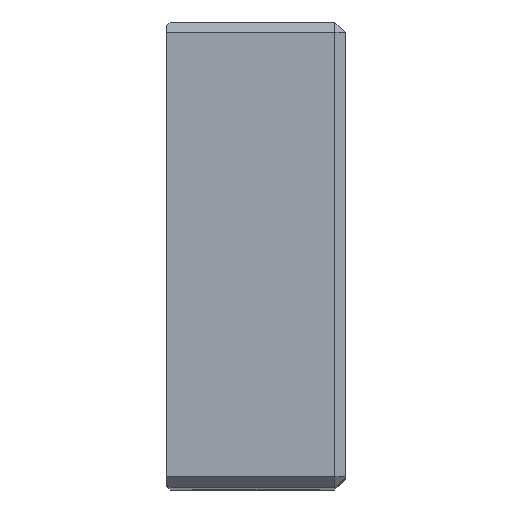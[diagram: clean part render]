
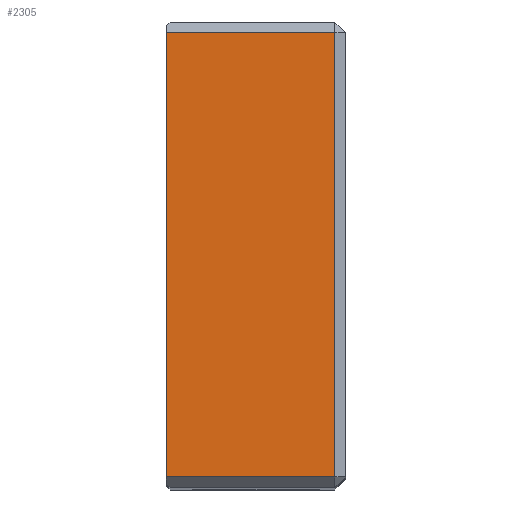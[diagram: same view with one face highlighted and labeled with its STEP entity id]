
A CAD part, top view. The second image highlights one B-rep face of the part: STEP entity #2305.
In plain terms, the highlighted planar face has unit normal (0, 0, 1).
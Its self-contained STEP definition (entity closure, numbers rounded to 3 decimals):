
#267=VERTEX_POINT(' ',#268);
#268=CARTESIAN_POINT('',(-3.,-62.,0.));
#269=VERTEX_POINT(' ',#270);
#270=CARTESIAN_POINT('',(-3.,62.,0.));
#271=VERTEX_POINT(' ',#272);
#272=CARTESIAN_POINT('',(-50.,62.,0.));
#273=VERTEX_POINT(' ',#274);
#274=CARTESIAN_POINT('',(-50.,-62.,0.));
#1112=LINE('',#1113,#1114);
#1113=CARTESIAN_POINT('',(-3.,78.971,0.));
#1114=VECTOR('',#1115,1.);
#1115=DIRECTION('',(0.,-1.,0.));
#1116=EDGE_CURVE(' ',#269,#267,#1112,.T.);
#1117=LINE('',#1118,#1119);
#1118=CARTESIAN_POINT('',(-66.971,62.,0.));
#1119=VECTOR('',#1120,1.);
#1120=DIRECTION('',(1.,0.,0.));
#1121=EDGE_CURVE(' ',#271,#269,#1117,.T.);
#1122=LINE('',#1123,#1124);
#1123=CARTESIAN_POINT('',(-50.,65.12,0.));
#1124=VECTOR('',#1125,1.);
#1125=DIRECTION('',(0.,-1.,0.));
#1126=EDGE_CURVE(' ',#271,#273,#1122,.T.);
#1127=LINE('',#1128,#1129);
#1128=CARTESIAN_POINT('',(13.971,-62.,0.));
#1129=VECTOR('',#1130,1.);
#1130=DIRECTION('',(-1.,0.,0.));
#1131=EDGE_CURVE(' ',#267,#273,#1127,.T.);
#2294=ORIENTED_EDGE('',*,*,#1116,.F.);
#2295=ORIENTED_EDGE('',*,*,#1121,.F.);
#2296=ORIENTED_EDGE('',*,*,#1126,.T.);
#2297=ORIENTED_EDGE('',*,*,#1131,.F.);
#2298=EDGE_LOOP('',(#2294,#2295,#2296,#2297));
#2299=FACE_OUTER_BOUND('',#2298,.T.);
#2300=PLANE('',#2301);
#2301=AXIS2_PLACEMENT_3D('',#2302,#2303,#2304);
#2302=CARTESIAN_POINT('',(0.,65.,0.));
#2303=DIRECTION('',(0.,0.,1.));
#2304=DIRECTION('',(0.,-1.,0.));
#2305=ADVANCED_FACE('',(#2299),#2300,.T.);
